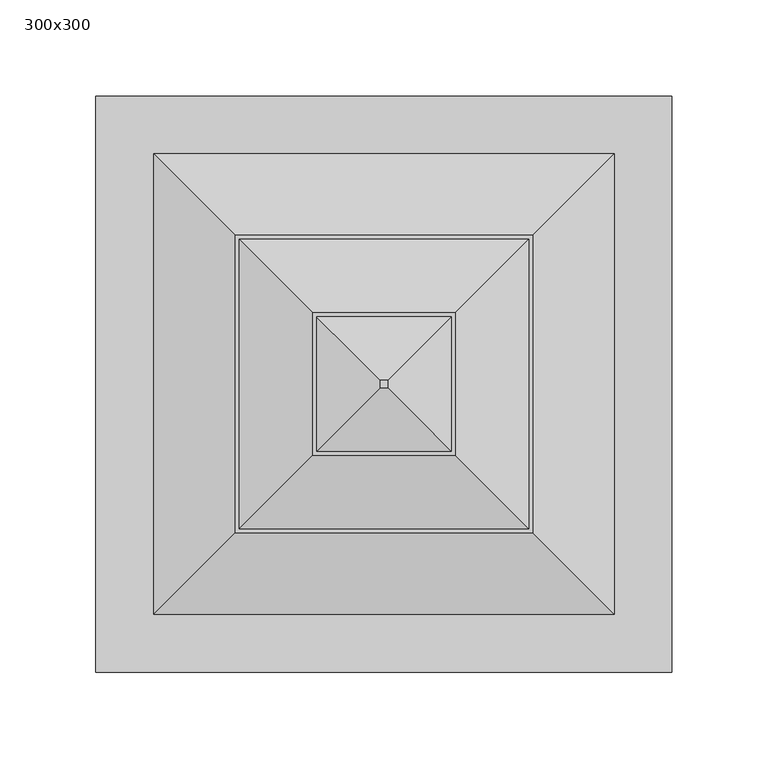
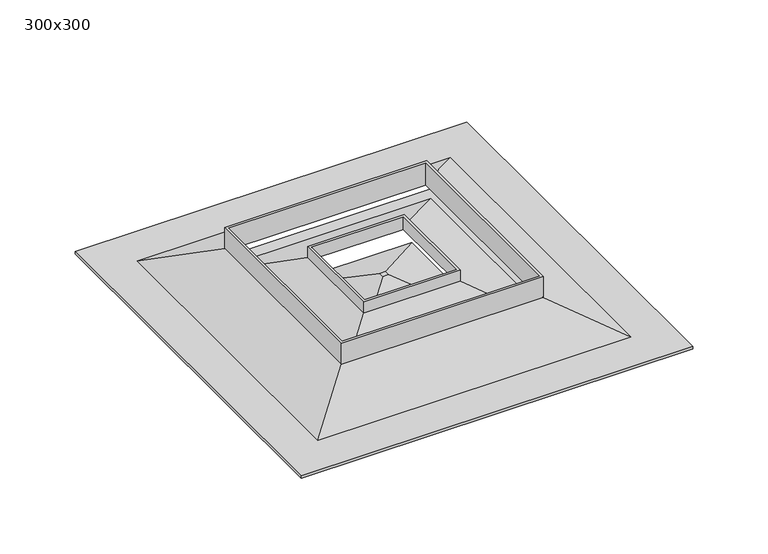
"""IFC4 building model written with IfcOpenShell, lengths in millimetres: air terminal geometry, BL_ДифузорПотолочный_Прямоугольный_Вытяжной_LDP : 300x300."""

from ifc_helpers import new_model, si_unit, origin, place, context, project, spatial, faceted_brep, source, transform, mapped, element, save


def air_terminal_300x300_0f7a04d9(model_context):
    return source(origin(), model_context, "Body", "Brep", [
        faceted_brep([(35.0, 35.0, -15.0), (85.0, 85.0, -40.0), (85.0, -85.0, -40.0), (35.0, -35.0, -15.0), (35.0, 35.0, -5.0), (35.0, -35.0, -5.0), (37.0, 37.0, -14.0), (37.0, 37.0, -5.0), (37.0, -37.0, -5.0), (37.0, -37.0, -14.0), (85.0, 85.0, -38.0), (85.0, -85.0, -38.0), (95.0, 95.0, -40.0), (95.0, 95.0, -38.0), (95.0, -95.0, -38.0), (95.0, -95.0, -40.0), (-85.0, -85.0, -40.0), (-35.0, -35.0, -15.0), (-35.0, -35.0, -5.0), (-37.0, -37.0, -5.0), (-37.0, -37.0, -14.0), (-85.0, -85.0, -38.0), (-95.0, -95.0, -38.0), (-95.0, -95.0, -40.0), (-85.0, 85.0, -40.0), (-35.0, 35.0, -15.0), (-35.0, 35.0, -5.0), (-37.0, 37.0, -5.0), (-37.0, 37.0, -14.0), (-85.0, 85.0, -38.0), (-95.0, 95.0, -38.0), (-95.0, 95.0, -40.0)], [[[0, 1, 2, 3]], [[4, 0, 3, 5]], [[6, 7, 8, 9]], [[10, 6, 9, 11]], [[12, 13, 14, 15]], [[3, 2, 16, 17]], [[5, 3, 17, 18]], [[9, 8, 19, 20]], [[11, 9, 20, 21]], [[15, 14, 22, 23]], [[17, 16, 24, 25]], [[18, 17, 25, 26]], [[20, 19, 27, 28]], [[21, 20, 28, 29]], [[23, 22, 30, 31]], [[25, 24, 1, 0]], [[26, 25, 0, 4]], [[7, 27, 19, 8], [5, 18, 26, 4]], [[28, 27, 7, 6]], [[29, 28, 6, 10]], [[13, 30, 22, 14], [11, 21, 29, 10]], [[31, 30, 13, 12]], [[15, 23, 31, 12], [1, 24, 16, 2]]]),
        faceted_brep([(2.0, 2.0, -17.75), (-2.0, 2.0, -17.75), (-2.0, -2.0, -17.75), (2.0, -2.0, -17.75), (50.0, 50.0, -40.0), (50.0, -50.0, -40.0), (-50.0, -50.0, -40.0), (-50.0, 50.0, -40.0)], [[[0, 1, 2, 3]], [[4, 5, 6, 7]], [[4, 7, 1, 0]], [[7, 6, 2, 1]], [[6, 5, 3, 2]], [[5, 4, 0, 3]]]),
        faceted_brep([(150.0, 150.0, -40.0), (150.0, 150.0, -38.0), (150.0, -150.0, -38.0), (150.0, -150.0, -40.0), (120.0, 120.0, -38.0), (77.5, 77.5, -16.75), (77.5, -77.5, -16.75), (120.0, -120.0, -38.0), (77.5, 77.5, 0.0), (77.5, -77.5, 0.0), (75.5, 75.5, 0.0), (75.5, 75.5, -17.75), (75.5, -75.5, -17.75), (75.5, -75.5, 0.0), (120.0, 120.0, -40.0), (120.0, -120.0, -40.0), (-150.0, -150.0, -38.0), (-150.0, -150.0, -40.0), (-77.5, -77.5, -16.75), (-120.0, -120.0, -38.0), (-77.5, -77.5, 0.0), (-75.5, -75.5, -17.75), (-75.5, -75.5, 0.0), (-120.0, -120.0, -40.0), (-150.0, 150.0, -38.0), (-150.0, 150.0, -40.0), (-77.5, 77.5, -16.75), (-120.0, 120.0, -38.0), (-77.5, 77.5, 0.0), (-75.5, 75.5, -17.75), (-75.5, 75.5, 0.0), (-120.0, 120.0, -40.0)], [[[0, 1, 2, 3]], [[4, 5, 6, 7]], [[5, 8, 9, 6]], [[10, 11, 12, 13]], [[11, 14, 15, 12]], [[3, 2, 16, 17]], [[7, 6, 18, 19]], [[6, 9, 20, 18]], [[13, 12, 21, 22]], [[12, 15, 23, 21]], [[17, 16, 24, 25]], [[19, 18, 26, 27]], [[18, 20, 28, 26]], [[22, 21, 29, 30]], [[21, 23, 31, 29]], [[3, 17, 25, 0], [14, 31, 23, 15]], [[25, 24, 1, 0]], [[1, 24, 16, 2], [7, 19, 27, 4]], [[27, 26, 5, 4]], [[26, 28, 8, 5]], [[8, 28, 20, 9], [13, 22, 30, 10]], [[30, 29, 11, 10]], [[29, 31, 14, 11]]]),
    ])


if __name__ == "__main__":
    model = new_model("IFC4")
    model_context = context("Model", 3, world=origin())
    ifc_project = project(units=[si_unit("LENGTHUNIT", "METRE", prefix="MILLI")], contexts=[model_context])
    site = spatial("IfcSite", under=ifc_project)
    building = spatial("IfcBuilding", under=site)
    placement = place(None, origin())
    air_terminal_300x300_shape = air_terminal_300x300_0f7a04d9(model_context)
    element("IfcAirTerminal", 1, ObjectType="BL_ДифузорПотолочный_Прямоугольный_Вытяжной_LDP : 300x300", at=placement, inside=building, context=model_context, shape_type="MappedRepresentation", body=[
        mapped(air_terminal_300x300_shape, transform((0.0, 0.0, 0.0), x_axis=(1.0, 0.0, 0.0), y_axis=(0.0, 1.0, 0.0), z_axis=(0.0, 0.0, 1.0))),
    ])
    save(model, "model.ifc")
